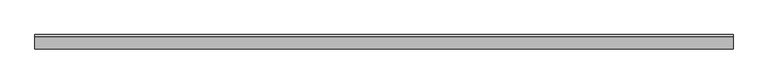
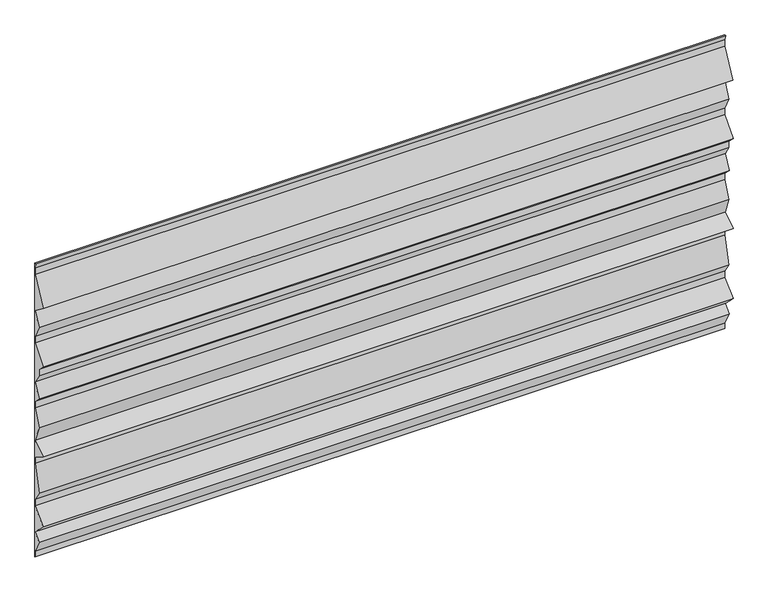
"""IFC4 building model written with IfcOpenShell, lengths in millimetres: plate geometry, ATELIERS 3S_GLACE PISSAILLAS 1000_HORIZONTAL : AZURO."""

import ifcopenshell
import ifcopenshell.guid

model = None  # the IFC model being written
_history = None  # IfcOwnerHistory: only IFC2X3 demands one
_inside = {}  # id of a spatial element -> (the spatial element, [elements in it])
_under = {}  # id of a project, library or spatial element -> (it, [spatial elements below it])
_declared = {}  # id of a project -> (the project, [libraries it declares])
_typed = {}  # id of a type object -> (the type object, [elements of that type])
_made_of = {}  # id of a material, layer set ... -> (it, [elements and type objects made of it])


def new_model(schema):
    """Start an empty IFC model of exactly this schema.

    Asked for "IFC4X3", IfcOpenShell would pick the latest addendum, in which some entities
    have other attributes; the version numbers below select the first issue.
    IFC2X3 requires an IfcOwnerHistory on every rooted entity: one is made here for all.
    """
    global model, _history
    if schema == "IFC4X3":
        model = ifcopenshell.file(schema_version=(4, 3, 0, 0))
    else:
        model = ifcopenshell.file(schema=schema)
    _inside.clear()
    _under.clear()
    _declared.clear()
    _typed.clear()
    _made_of.clear()
    _history = None
    if model.schema == "IFC2X3":
        org = make("IfcOrganization", Name="unknown")
        user = make(
            "IfcPersonAndOrganization",
            ThePerson=make("IfcPerson", FamilyName="unknown"),
            TheOrganization=org,
        )
        app = make(
            "IfcApplication",
            ApplicationDeveloper=org,
            Version="unknown",
            ApplicationFullName="unknown",
            ApplicationIdentifier="unknown",
        )
        _history = make(
            "IfcOwnerHistory",
            OwningUser=user,
            OwningApplication=app,
            ChangeAction="ADDED",
            CreationDate=0,
        )
    return model


def make(cls, **values):
    """One entity of the class cls with the attributes given. An attribute that is None is left unset."""
    return model.create_entity(
        cls, **{name: value for name, value in values.items() if value is not None}
    )


def rooted(cls, **values):
    """An entity with a GlobalId (a new one), such as an element, a storey or a relation."""
    return make(cls, GlobalId=ifcopenshell.guid.new(), OwnerHistory=_history, **values)


def si_unit(unit_type, name, prefix=None):
    """IfcSIUnit, for example si_unit("LENGTHUNIT", "METRE", prefix="MILLI")."""
    return make("IfcSIUnit", UnitType=unit_type, Prefix=prefix, Name=name)


def assignment(units):
    """IfcUnitAssignment: the units of a project."""
    return None if units is None else make("IfcUnitAssignment", Units=units)


def point(xyz):
    """IfcCartesianPoint."""
    return None if xyz is None else make("IfcCartesianPoint", Coordinates=xyz)


def direction(xyz):
    """IfcDirection."""
    return None if xyz is None else make("IfcDirection", DirectionRatios=xyz)


def frame(location, z_axis=None, x_axis=None):
    """IfcAxis2Placement3D, a coordinate frame: its origin and axes. An axis left out is left unset."""
    return make(
        "IfcAxis2Placement3D",
        Location=point(location),
        Axis=direction(z_axis),
        RefDirection=direction(x_axis),
    )


def origin():
    """The frame at (0, 0, 0) with its axes left unset."""
    return frame((0.0, 0.0, 0.0))


def place(relative_to, where):
    """IfcLocalPlacement: puts the frame where relative to a parent placement (None: the world)."""
    return make(
        "IfcLocalPlacement", PlacementRelTo=relative_to, RelativePlacement=where
    )


def context(
    kind, dimensions, precision=None, world=None, true_north=None, identifier=None
):
    """IfcGeometricRepresentationContext, for example the 3D "Model" context."""
    return make(
        "IfcGeometricRepresentationContext",
        ContextIdentifier=identifier,
        ContextType=kind,
        CoordinateSpaceDimension=dimensions,
        Precision=precision,
        WorldCoordinateSystem=world,
        TrueNorth=true_north,
    )


def project(units=None, contexts=None):
    """IfcProject with its units and contexts."""
    return rooted(
        "IfcProject",
        Name="project",
        RepresentationContexts=contexts,
        UnitsInContext=assignment(units),
    )


def spatial(cls, under=None, at=None, **own):
    """A site, building, storey or space (cls), placed at a placement, below another one or the project."""
    s = rooted(cls, ObjectPlacement=at, **own)
    if under is not None:
        _under.setdefault(under.id(), (under, []))[1].append(s)
    return s


def polyline(points):
    """IfcPolyline through the points."""
    return make("IfcPolyline", Points=[point(p) for p in points])


def outline(outer, holes=None, kind="AREA"):
    """IfcArbitraryClosedProfileDef: a profile drawn as a closed curve; with holes, ...WithVoids."""
    if holes is None:
        return make("IfcArbitraryClosedProfileDef", ProfileType=kind, OuterCurve=outer)
    return make(
        "IfcArbitraryProfileDefWithVoids",
        ProfileType=kind,
        OuterCurve=outer,
        InnerCurves=holes,
    )


def extrude(swept, where, along, depth):
    """IfcExtrudedAreaSolid: the profile swept, set in the frame where, extruded along a direction by depth."""
    return make(
        "IfcExtrudedAreaSolid",
        SweptArea=swept,
        Position=where,
        ExtrudedDirection=direction(along),
        Depth=depth,
    )


def shape(context_of_items, identifier, shape_type, items):
    """IfcShapeRepresentation: the items that make up one representation, for example the "Body"."""
    return make(
        "IfcShapeRepresentation",
        ContextOfItems=context_of_items,
        RepresentationIdentifier=identifier,
        RepresentationType=shape_type,
        Items=items,
    )


def source(mapping_origin, context_of_items, identifier, shape_type, items):
    """IfcRepresentationMap: a shape defined once, which mapped items show again and again."""
    return make(
        "IfcRepresentationMap",
        MappingOrigin=mapping_origin,
        MappedRepresentation=shape(context_of_items, identifier, shape_type, items),
    )


def transform(
    local_origin,
    x_axis=None,
    y_axis=None,
    z_axis=None,
    scale=None,
    scale2=None,
    scale3=None,
    uniform=True,
):
    """IfcCartesianTransformationOperator3D, or its non-uniform kind. x_axis, y_axis, z_axis: its Axis1, 2, 3."""
    if uniform:
        return make(
            "IfcCartesianTransformationOperator3D",
            Axis1=direction(x_axis),
            Axis2=direction(y_axis),
            LocalOrigin=point(local_origin),
            Scale=scale,
            Axis3=direction(z_axis),
        )
    return make(
        "IfcCartesianTransformationOperator3DnonUniform",
        Axis1=direction(x_axis),
        Axis2=direction(y_axis),
        LocalOrigin=point(local_origin),
        Scale=scale,
        Axis3=direction(z_axis),
        Scale2=scale2,
        Scale3=scale3,
    )


def mapped(mapping_source, mapping_target):
    """IfcMappedItem: shows the shape of a source again, moved by a transform."""
    return make(
        "IfcMappedItem", MappingSource=mapping_source, MappingTarget=mapping_target
    )


def made_of(thing, what):
    """Note that an element or type object is made of a material, layer set ...; save() writes the relation."""
    if what is not None:
        _made_of.setdefault(what.id(), (what, []))[1].append(thing)
    return thing


def element(
    cls,
    number,
    at=None,
    inside=None,
    cuts=None,
    type_object=None,
    material=None,
    context=None,
    identifier="Body",
    shape_type=None,
    held_by="IfcProductDefinitionShape",
    body=None,
    shapes=None,
    **own,
):
    """One element of the class cls, such as IfcWall. Its Tag is "e" and its number.

    at: its placement. inside: the storey or other place that contains it. cuts: it is an
    opening in that element (IfcRelVoidsElement). A single representation is given by context,
    identifier, shape_type and body (its items); several are given by shapes. held_by: the class
    of the entity that holds the representations. save() writes the other relations.
    """
    e = rooted(cls, Tag="e%d" % number, ObjectPlacement=at, **own)
    if body is not None:
        shapes = [shape(context, identifier, shape_type, body)]
    if shapes is not None:
        e.Representation = make(held_by, Representations=shapes)
    if inside is not None:
        _inside.setdefault(inside.id(), (inside, []))[1].append(e)
    if cuts is not None:
        rooted(
            "IfcRelVoidsElement", RelatingBuildingElement=cuts, RelatedOpeningElement=e
        )
    if type_object is not None:
        _typed.setdefault(type_object.id(), (type_object, []))[1].append(e)
    return made_of(e, material)


def aggregate(whole, parts):
    """IfcRelAggregates: a whole, such as a stair, and the parts it consists of."""
    return rooted("IfcRelAggregates", RelatingObject=whole, RelatedObjects=parts)


def save(model, path):
    """Write the relations noted so far, then the file.

    IfcRelAggregates (storeys below a building ...), IfcRelContainedInSpatialStructure (elements
    in a storey), IfcRelDefinesByType, IfcRelAssociatesMaterial and IfcRelDeclares: one each for
    every whole, place, type object, material and project.
    """
    for whole, parts in _under.values():
        aggregate(whole, parts)
    for where, things in _inside.values():
        rooted(
            "IfcRelContainedInSpatialStructure",
            RelatedElements=things,
            RelatingStructure=where,
        )
    for kind, things in _typed.values():
        rooted("IfcRelDefinesByType", RelatedObjects=things, RelatingType=kind)
    for what, things in _made_of.values():
        rooted("IfcRelAssociatesMaterial", RelatedObjects=things, RelatingMaterial=what)
    for by, libraries in _declared.values():
        rooted("IfcRelDeclares", RelatingContext=by, RelatedDefinitions=libraries)
    model.write(path)


def plate_db7cd5ce(model_context):
    return source(origin(), model_context, "Body", "SweptSolid", [
        extrude(outline(polyline([(-0.8, 0.0), (-0.8, 16.9163895), (-20.9135393, 57.5498441), (-1.0660999, 76.9962838), (-41.0606602, 116.9908441), (-0.75, 157.3015043), (-0.75, 176.7637624), (-20.8080747, 206.8508744), (-0.75, 287.0831733), (-0.75, 306.5751584), (-41.4150972, 331.9908441), (-0.9292392, 357.2945053), (-20.8077747, 406.9908441), (-0.75, 457.1352809), (-0.75, 476.6801839), (-20.9125704, 496.8427543), (-0.8654665, 536.9369621), (-20.75, 566.7637624), (-20.75, 586.6801839), (-41.009736, 606.9399199), (-0.75, 656.2580964), (-0.75, 675.8137931), (-20.8385255, 715.9908441), (-0.9507458, 755.7664035), (-40.9507458, 785.7664035), (-0.75, 866.1678951), (-0.75, 885.8862432), (-4.7649271, 900.0), (0.0, 900.0), (0.0, 0.0), (-0.8, 0.0)])), frame((-999.362758, 0.0, 0.0), z_axis=(1.0, 0.0, 0.0), x_axis=(0.0, 1.0, 0.0)), (0.0, 0.0, 1.0), 1998.7255161),
    ])


if __name__ == "__main__":
    model = new_model("IFC4")
    model_context = context("Model", 3, world=origin())
    ifc_project = project(units=[si_unit("LENGTHUNIT", "METRE", prefix="MILLI")], contexts=[model_context])
    site = spatial("IfcSite", under=ifc_project)
    building = spatial("IfcBuilding", under=site)
    placement = place(None, origin())
    plate_shape = plate_db7cd5ce(model_context)
    element("IfcPlate", 1, ObjectType="ATELIERS 3S_GLACE PISSAILLAS 1000_HORIZONTAL : AZURO", at=placement, inside=building, context=model_context, shape_type="MappedRepresentation", body=[
        mapped(plate_shape, transform((0.0, 0.0, 0.0), x_axis=(1.0, 0.0, 0.0), y_axis=(0.0, 1.0, 0.0), z_axis=(0.0, 0.0, 1.0))),
    ])
    save(model, "model.ifc")
